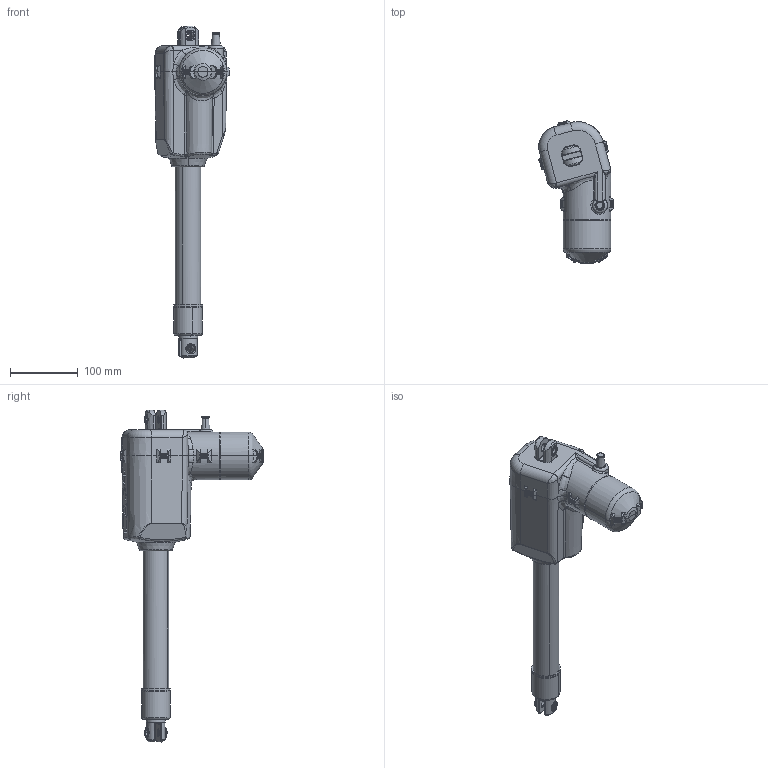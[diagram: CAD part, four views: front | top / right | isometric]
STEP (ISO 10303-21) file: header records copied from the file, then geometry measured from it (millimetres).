
FILE_DESCRIPTION((''),'2;1');
FILE_NAME('343100_0XXXX0AX','2006-02-02T',('abl'),(''),'PRO/ENGINEER BY PARAMETRIC TECHNOLOGY CORPORATION, 2005110','PRO/ENGINEER BY PARAMETRIC TECHNOLOGY CORPORATION, 2005110','');
FILE_SCHEMA(('CONFIG_CONTROL_DESIGN'));
Length unit declared in the file: millimetre
Products named in the file (1): 343100_0XXXX0AX
Bounding box: 109.68 x 209.65 x 488.49 mm (x, y, z)
Volume: 1934067.6 mm3; surface area: 196768.7 mm2
Topology: 3 solids, 3 shells, 958 faces, 2640 edges, 1650 vertices
Faces by surface type: plane 548, cylinder 185, bspline 71, cone 65, torus 49, sphere 40
Entity records: 34969 total; most frequent: CARTESIAN_POINT 11531, ORIENTED_EDGE 5208, DIRECTION 4439, EDGE_CURVE 2604, VERTEX_POINT 1650, VECTOR 1645, LINE 1645, AXIS2_PLACEMENT_3D 1397
